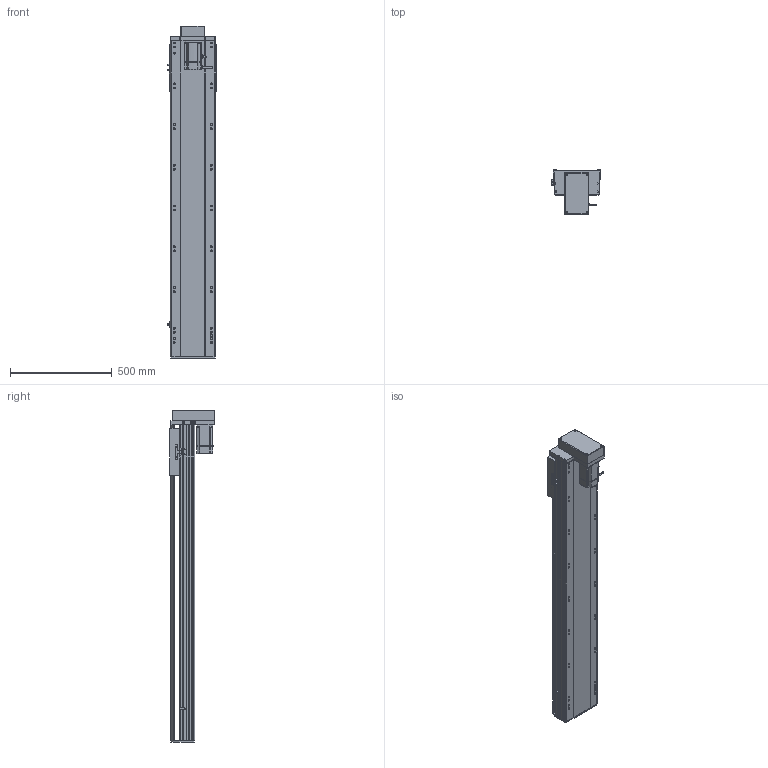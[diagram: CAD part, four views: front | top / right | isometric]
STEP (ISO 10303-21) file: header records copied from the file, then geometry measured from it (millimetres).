
FILE_DESCRIPTION (( 'STEP AP214' ), '1' );
FILE_NAME ('RTH22-XX-1250-M-M75-C4.STEP', '2025-10-24T11:14:02', ( 'Microsoft' ), ( 'Microsoft' ), 'SwSTEP 2.0', 'SolidWorks 2018', '' );
FILE_SCHEMA (( 'AUTOMOTIVE_DESIGN' ));
Length unit declared in the file: millimetre
Products named in the file (10): N_RTH22-L-011菁釱^RTH22-XX-XX-M-M75-C4; N_OMRON EE-SX672 传感器^RTH22-XX-XX-M-M75-C4; RTH22-XX-1250-M-M75-C4; N_750W萇儂^RTH22-XX-XX-M-M75-C4; N_RTH22-M-007奻裔^RTH22-XX-XX-M-M75-C4; N_RTH22-GY-013外置感应片^RTH22-XX-XX-M-M75-C4; N_RTH22-M-008-P75萇儂啣^RTH22-XX-XX-M-M75-C4; N_RTH22-M-018裔赽^RTH22-XX-XX-M-M75-C4; N_RTH22-L-004-SFS25賑釱^RTH22-XX-XX-M-M75-C4; N_RTH22-GY-001耜裔^RTH22-XX-XX-M-M75-C4
Assembly tree (11 placements, depth 2):
  RTH22-XX-1250-M-M75-C4
    N_RTH22-L-011菁釱^RTH22-XX-XX-M-M75-C4
    N_RTH22-GY-001耜裔^RTH22-XX-XX-M-M75-C4
    N_750W萇儂^RTH22-XX-XX-M-M75-C4
    N_RTH22-M-008-P75萇儂啣^RTH22-XX-XX-M-M75-C4
    N_RTH22-M-007奻裔^RTH22-XX-XX-M-M75-C4
    N_RTH22-M-018裔赽^RTH22-XX-XX-M-M75-C4
    N_OMRON EE-SX672 传感器^RTH22-XX-XX-M-M75-C4  x3
    N_RTH22-GY-013外置感应片^RTH22-XX-XX-M-M75-C4
    N_RTH22-L-004-SFS25賑釱^RTH22-XX-XX-M-M75-C4
Bounding box: 238.5 x 218.5 x 1629.7 mm (x, y, z)
Volume: 21752970.5 mm3; surface area: 2356754.4 mm2
Topology: 11 solids, 11 shells, 1659 faces, 4530 edges, 2915 vertices
Faces by surface type: plane 811, cylinder 499, bspline 279, cone 70
Entity records: 42315 total; most frequent: CARTESIAN_POINT 12660, ORIENTED_EDGE 6012, DIRECTION 5720, EDGE_CURVE 3006, VERTEX_POINT 1951, AXIS2_PLACEMENT_3D 1939, LINE 1842, VECTOR 1842
